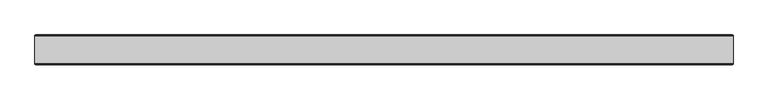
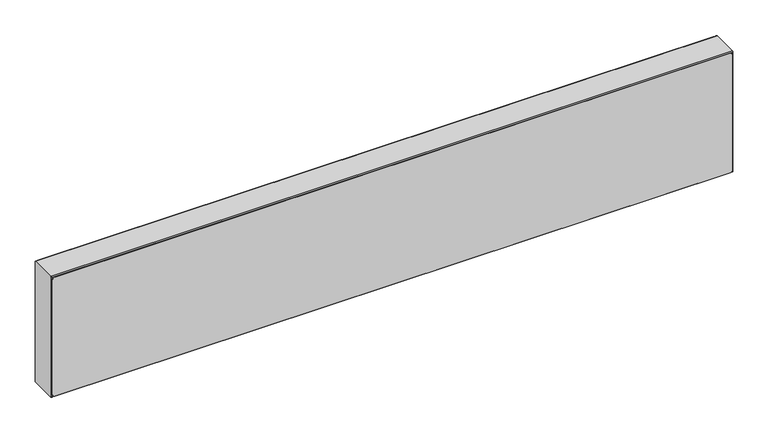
"""IFC4 building model written with IfcOpenShell, lengths in millimetres: proxy geometry, EVRA CV Д : 21-300-1600."""

from ifc_helpers import new_model, si_unit, point, frame, frame_2d, origin, place, context, project, spatial, polyline, circle_curve, trimmed, segment, composite_curve, outline, extrude, source, transform, mapped, element, save


def mechanical_equipment_c0c35615(model_context):
    return source(origin(), model_context, "Body", "SweptSolid", [
        extrude(outline(composite_curve([segment(polyline([(398.0, 993.0), (398.0, -593.0)]), True, "CONTINUOUS"), segment(trimmed(circle_curve(frame_2d((393.0, -593.0)), 5.0), [point((398.0, -593.0))], [point((393.0, -598.0))], False, "CARTESIAN"), True, "CONTINUOUS"), segment(polyline([(393.0, -598.0), (107.0, -598.0)]), True, "CONTINUOUS"), segment(trimmed(circle_curve(frame_2d((107.0, -593.0)), 5.0), [point((107.0, -598.0))], [point((102.0, -593.0))], False, "CARTESIAN"), True, "CONTINUOUS"), segment(polyline([(102.0, -593.0), (102.0, 993.0)]), True, "CONTINUOUS"), segment(trimmed(circle_curve(frame_2d((107.0, 993.0)), 5.0), [point((102.0, 993.0))], [point((107.0, 998.0))], False, "CARTESIAN"), True, "CONTINUOUS"), segment(polyline([(107.0, 998.0), (393.0, 998.0)]), True, "CONTINUOUS"), segment(trimmed(circle_curve(frame_2d((393.0, 993.0)), 5.0), [point((393.0, 998.0))], [point((398.0, 993.0))], False, "CARTESIAN"), True, "CONTINUOUS")], self_intersect=False)), frame((0.0, 11.4631102, 0.0), z_axis=(0.0, 1.0, 0.0), x_axis=(0.0, 0.0, 1.0)), (0.0, 0.0, 1.0), 1.0),
        extrude(outline(composite_curve([segment(polyline([(398.0, 993.0), (398.0, -593.0)]), True, "CONTINUOUS"), segment(trimmed(circle_curve(frame_2d((393.0, -593.0)), 5.0), [point((398.0, -593.0))], [point((393.0, -598.0))], False, "CARTESIAN"), True, "CONTINUOUS"), segment(polyline([(393.0, -598.0), (107.0, -598.0)]), True, "CONTINUOUS"), segment(trimmed(circle_curve(frame_2d((107.0, -593.0)), 5.0), [point((107.0, -598.0))], [point((102.0, -593.0))], False, "CARTESIAN"), True, "CONTINUOUS"), segment(polyline([(102.0, -593.0), (102.0, 993.0)]), True, "CONTINUOUS"), segment(trimmed(circle_curve(frame_2d((107.0, 993.0)), 5.0), [point((102.0, 993.0))], [point((107.0, 998.0))], False, "CARTESIAN"), True, "CONTINUOUS"), segment(polyline([(107.0, 998.0), (393.0, 998.0)]), True, "CONTINUOUS"), segment(trimmed(circle_curve(frame_2d((393.0, 993.0)), 5.0), [point((393.0, 998.0))], [point((398.0, 993.0))], False, "CARTESIAN"), True, "CONTINUOUS")], self_intersect=False)), frame((0.0, -55.5368898, 0.0), z_axis=(0.0, 1.0, 0.0), x_axis=(0.0, 0.0, 1.0)), (0.0, 0.0, 1.0), 1.0),
        extrude(outline(composite_curve([segment(trimmed(circle_curve(frame_2d((9.4631102, 398.0)), 2.0), [point((9.4631102, 400.0))], [point((11.4631102, 398.0))], False, "CARTESIAN"), True, "CONTINUOUS"), segment(polyline([(11.4631102, 398.0), (11.4631102, 102.0)]), True, "CONTINUOUS"), segment(trimmed(circle_curve(frame_2d((9.4631102, 102.0)), 2.0), [point((11.4631102, 102.0))], [point((9.4631102, 100.0))], False, "CARTESIAN"), True, "CONTINUOUS"), segment(polyline([(9.4631102, 100.0), (-52.5368898, 100.0)]), True, "CONTINUOUS"), segment(trimmed(circle_curve(frame_2d((-52.5368898, 102.0)), 2.0), [point((-52.5368898, 100.0))], [point((-54.5368898, 102.0))], False, "CARTESIAN"), True, "CONTINUOUS"), segment(polyline([(-54.5368898, 102.0), (-54.5368898, 398.0)]), True, "CONTINUOUS"), segment(trimmed(circle_curve(frame_2d((-52.5368898, 398.0)), 2.0), [point((-54.5368898, 398.0))], [point((-52.5368898, 400.0))], False, "CARTESIAN"), True, "CONTINUOUS"), segment(polyline([(-52.5368898, 400.0), (9.4631102, 400.0)]), True, "CONTINUOUS")], self_intersect=False)), frame((-600.0, 0.0, 0.0), z_axis=(1.0, 0.0, 0.0), x_axis=(0.0, 1.0, 0.0)), (0.0, 0.0, 1.0), 1600.0),
    ])


if __name__ == "__main__":
    model = new_model("IFC4")
    model_context = context("Model", 3, world=origin())
    ifc_project = project(units=[si_unit("LENGTHUNIT", "METRE", prefix="MILLI")], contexts=[model_context])
    site = spatial("IfcSite", under=ifc_project)
    building = spatial("IfcBuilding", under=site)
    placement = place(None, origin())
    mechanical_equipment_shape = mechanical_equipment_c0c35615(model_context)
    element("IfcBuildingElementProxy", 1, Name="EVRA CV Д : 21-300-1600", ObjectType="EVRA CV Д : 21-300-1600", at=placement, inside=building, context=model_context, shape_type="MappedRepresentation", body=[
        mapped(mechanical_equipment_shape, transform((0.0, 0.0, 0.0), x_axis=(1.0, 0.0, 0.0), y_axis=(0.0, 1.0, 0.0), z_axis=(0.0, 0.0, 1.0))),
    ])
    save(model, "model.ifc")
